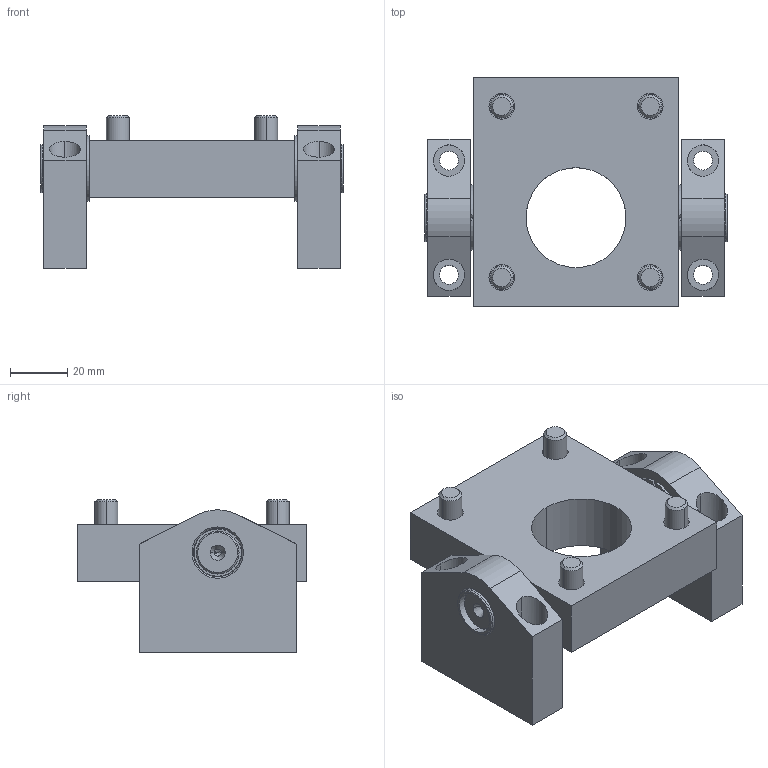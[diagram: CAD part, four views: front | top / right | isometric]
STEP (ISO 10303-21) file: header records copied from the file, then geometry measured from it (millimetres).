
FILE_DESCRIPTION (( 'STEP AP203' ), '1' );
FILE_NAME ('MJ1-KP(Z2)-SFK.STEP', '2024-01-16T10:40:06', ( '' ), ( '' ), 'SwSTEP 2.0', 'SolidWorks 2022', '' );
FILE_SCHEMA (( 'CONFIG_CONTROL_DESIGN' ));
Length unit declared in the file: millimetre
Products named in the file (1): MJ1-KP(Z2)-SFK
Bounding box: 106.15 x 80 x 53.6 mm (x, y, z)
Volume: 160166.8 mm3; surface area: 50664.1 mm2
Topology: 9 solids, 9 shells, 220 faces, 530 edges, 336 vertices
Faces by surface type: plane 80, cylinder 76, cone 40, torus 24
Entity records: 6497 total; most frequent: CARTESIAN_POINT 1225, DIRECTION 1152, ORIENTED_EDGE 1036, EDGE_CURVE 518, AXIS2_PLACEMENT_3D 461, VERTEX_POINT 336, EDGE_LOOP 262, CIRCLE 240
